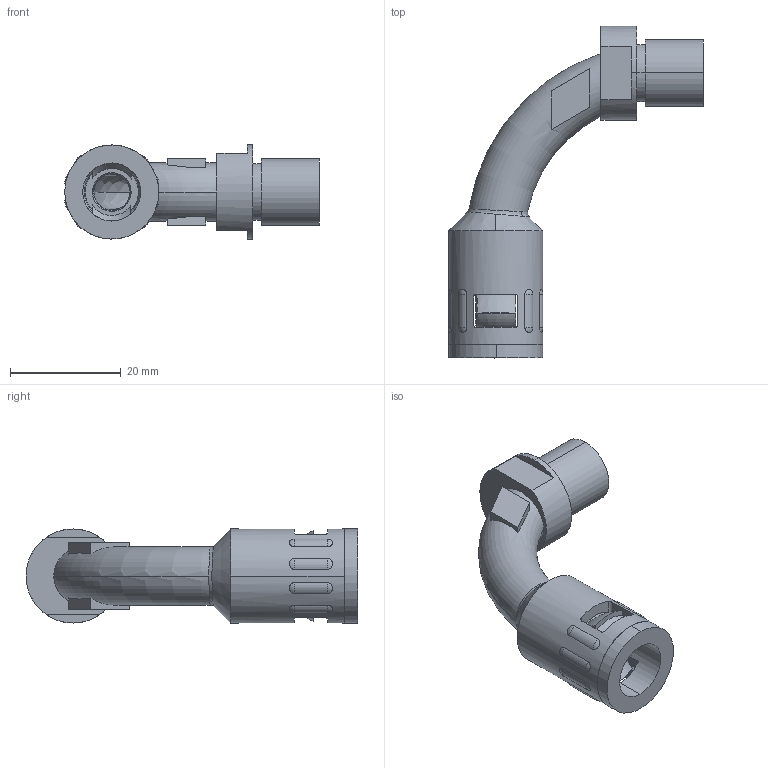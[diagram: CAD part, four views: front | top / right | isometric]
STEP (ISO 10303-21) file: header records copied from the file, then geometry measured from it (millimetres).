
FILE_DESCRIPTION (( 'STEP AP203' ), '1' );
FILE_NAME ('WQBW-M12-AD10.0.STEP', '2020-03-18T04:51:18', ( '' ), ( '' ), 'SwSTEP 2.0', 'SolidWorks 2016', '' );
FILE_SCHEMA (( 'CONFIG_CONTROL_DESIGN' ));
Length unit declared in the file: millimetre
Products named in the file (4): WQBM-M12-AD10.0; GFD-AD10.0; WQBW-M12-AD10.0; NSK-AD10.0
Assembly tree (3 placements, depth 2):
  WQBW-M12-AD10.0
    WQBM-M12-AD10.0
    GFD-AD10.0
    NSK-AD10.0
Bounding box: 46 x 60 x 17 mm (x, y, z)
Volume: 6355.5 mm3; surface area: 7746.3 mm2
Topology: 2 solids, 5 shells, 191 faces, 495 edges, 309 vertices
Faces by surface type: plane 57, cone 48, cylinder 36, torus 22, sphere 16, bspline 12
Entity records: 9055 total; most frequent: CARTESIAN_POINT 4247, ORIENTED_EDGE 922, DIRECTION 914, EDGE_CURVE 463, AXIS2_PLACEMENT_3D 375, VERTEX_POINT 293, EDGE_LOOP 217, FACE_OUTER_BOUND 191
